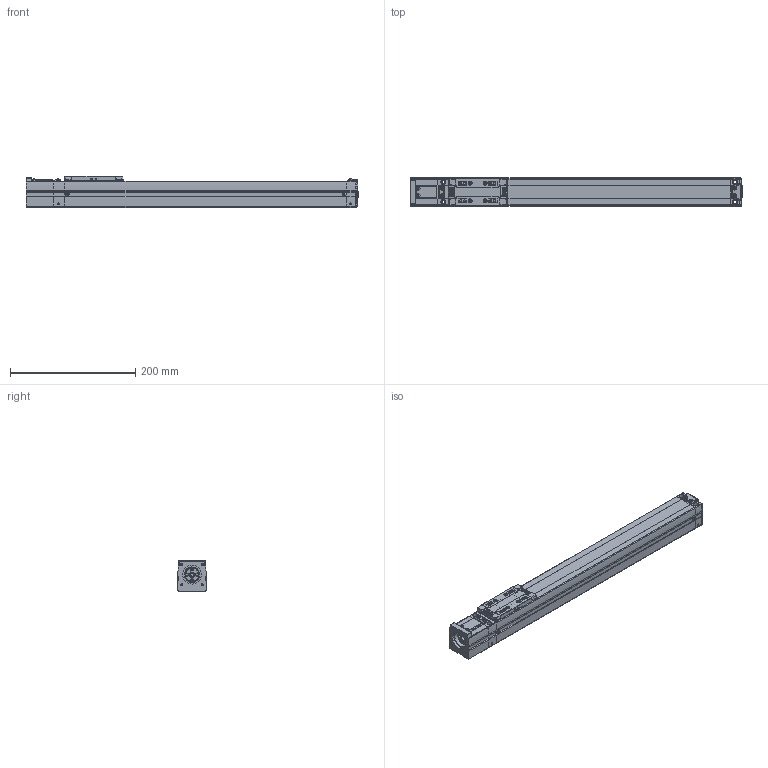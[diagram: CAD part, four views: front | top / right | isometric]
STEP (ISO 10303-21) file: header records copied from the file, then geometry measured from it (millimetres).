
FILE_DESCRIPTION(('STEP AP214'),'1');
FILE_NAME('Z:/Web/3D/SAN45/STP/SAN45ㅁㅁ-350S.stp','2012-06-15T06:54:03',(' '),(' '),'Spatial InterOp 3D',' ',' ');
FILE_SCHEMA(('automotive_design'));
Length unit declared in the file: metre
Products named in the file (63): SAN45__-350; BODY-SAN45; REAR-SAN45; RRCV-SAN45; BHCS M3 x 6L; BHCS M3 X 6L; FRONT-SAN45; SHAFT; RN8 x 0.75; SSFX-SAN45; SLIDE-SAN45; SLCV-IM45; FHCS M3 x 6L; ____87; S; MTHZ-SAN45; SDWB 22C-6-8; SDWB22C(2); SDWB22C(2)_1; SDWB22C(3); SDWB22C(3)_1; SDWB22C(3)_2; SDWB22C(3)_3; SDWB22C(3)_4; SDWB22C(3)_5; SDWB22C(3)_6; SDWB22C(3)_7; SDWB22C(3)_8; SDWB22C(3)_9; SDWB22C(3)_10; SDWB22C(3)_11; SDWB22C(3)_12; SDWB22C(3)_13; SDWB22C(3)_14; SDWB22C(3)_15; SDWB22C(4); SDWB22C(5); SDWB22C(5)_1; SDWB22C(5)_2; SDWB22C(5)_3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
Assembly tree (62 placements, depth 4):
  ____87
    SAN45__-350
      BODY-SAN45
      REAR-SAN45
        REAR-SAN45
        RRCV-SAN45
        BHCS M3 x 6L
        BHCS M3 X 6L
        BHCS M3 x 6L
        BHCS M3 x 6L
        BHCS M3 x 6L
        BHCS M3 x 6L
      FRONT-SAN45
        FRONT-SAN45
        SHAFT
        RN8 x 0.75
        SSFX-SAN45
        BHCS M3 x 6L
        BHCS M3 x 6L
        BHCS M3 x 6L
        BHCS M3 x 6L
      SLIDE-SAN45
        SLIDE-SAN45
        SLCV-IM45
        FHCS M3 x 6L
        FHCS M3 x 6L
        FHCS M3 x 6L
        FHCS M3 x 6L
    S
      MTHZ-SAN45
      SDWB 22C-6-8
        SDWB22C(2)
        SDWB22C(2)_1
        SDWB22C(3)
        SDWB22C(3)_1
        SDWB22C(3)_2
        SDWB22C(3)_3
        SDWB22C(3)_4
        SDWB22C(3)_5
        SDWB22C(3)_6
        SDWB22C(3)_7
        SDWB22C(3)_8
        SDWB22C(3)_9
        SDWB22C(3)_10
        SDWB22C(3)_11
        SDWB22C(3)_12
        SDWB22C(3)_13
        SDWB22C(3)_14
        SDWB22C(3)_15
        SDWB22C(4)
        SDWB22C(5)
        SDWB22C(5)_1
        SDWB22C(5)_2
        SDWB22C(5)_3
        SDWB22C(5)_4
        SDWB22C(5)_5
        SDWB22C(5)_6
        SDWB22C(5)_7
        SDWA22C(1)
        SDWA22C(1)
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Bounding box: 530.15 x 47.13 x 50 mm (x, y, z)
Volume: 963273 mm3; surface area: 162052 mm2
Topology: 56 solids, 56 shells, 1815 faces, 4651 edges, 3022 vertices
Faces by surface type: plane 1031, cylinder 557, cone 147, bspline 42, sphere 24, torus 11, extrusion 3
Full cylindrical faces by diameter (mm): 0.376 x2, 0.47 x1, 1.137 x2, 1.421 x1, 1.665 x4, 2.081 x2, 2.2 x4, 2.5 x39, 2.6 x14, 2.7 x2, 3 x10, 3.193 x4, 3.3 x8, 3.4 x4, 3.5 x8, 3.991 x2, 4.2 x11, 4.5 x28, 4.9 x2, 5 x13, 6 x9, 7 x1, 8 x9, 9 x1, 10.7 x2, 13 x1, 15 x1, 19 x1, 22.2 x3, 25 x1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
Entity records: 72781 total; most frequent: CARTESIAN_POINT 13891, DIRECTION 9115, ORIENTED_EDGE 8372, EDGE_CURVE 4186, AXIS2_PLACEMENT_3D 3243, VERTEX_POINT 2903, VECTOR 2629, LINE 2626
